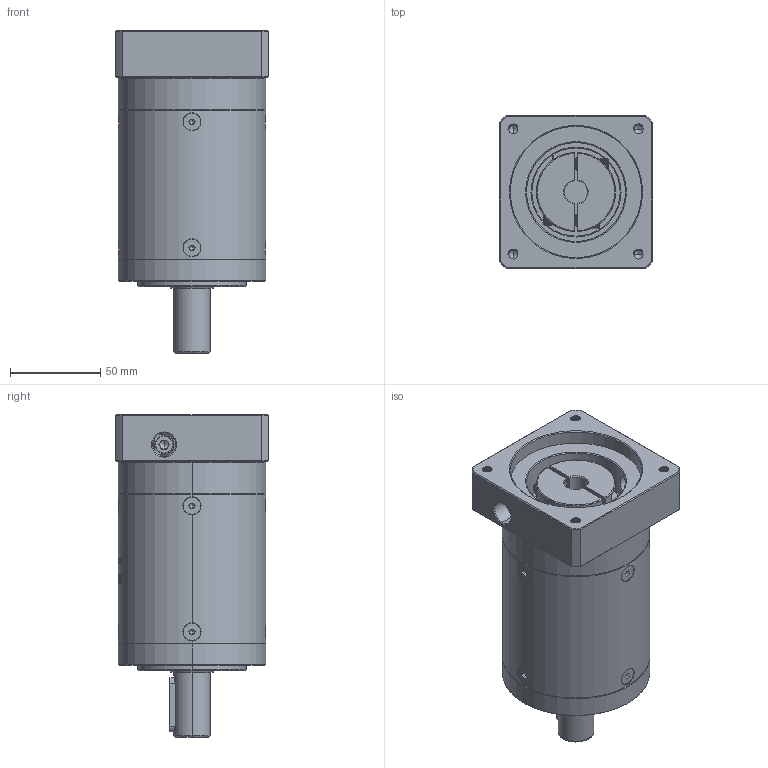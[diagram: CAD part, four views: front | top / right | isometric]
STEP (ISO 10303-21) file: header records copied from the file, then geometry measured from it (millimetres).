
FILE_DESCRIPTION (( 'STEP AP214' ), '1' );
FILE_NAME ('ZE80-D20-L3-12.7-73-69.5X69.5-M6.step', '2022-05-08T05:51:53', ( '' ), ( 'Microsoft' ), 'SwSTEP 2.0', 'SolidWorks 2016', '' );
FILE_SCHEMA (( 'AUTOMOTIVE_DESIGN' ));
Length unit declared in the file: millimetre
Products named in the file (1): ZE80-D20-L3-12.7-73-69.5X69.5-M6
Bounding box: 85 x 85 x 179 mm (x, y, z)
Volume: 724832.1 mm3; surface area: 95715.6 mm2
Topology: 13 solids, 13 shells, 2066 faces, 5378 edges, 3401 vertices
Faces by surface type: plane 891, cylinder 500, bspline 332, cone 326, torus 17
Entity records: 118433 total; most frequent: CARTESIAN_POINT 49425, ORIENTED_EDGE 10680, DIRECTION 8204, EDGE_CURVE 5340, VERTEX_POINT 3401, LINE 2866, VECTOR 2866, AXIS2_PLACEMENT_3D 2669
